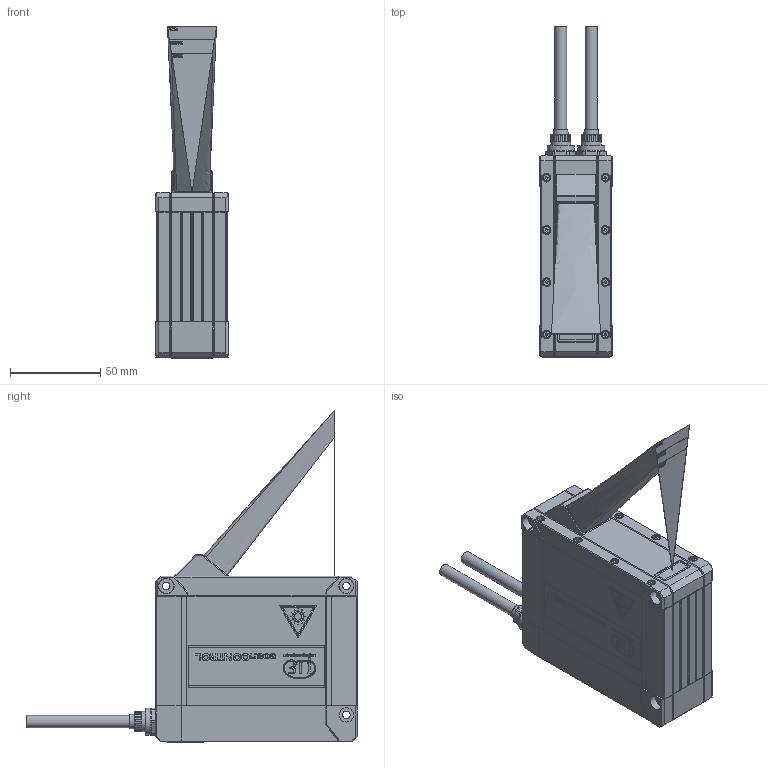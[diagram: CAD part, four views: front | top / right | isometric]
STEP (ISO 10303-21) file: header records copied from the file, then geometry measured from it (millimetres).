
FILE_DESCRIPTION (( 'STEP AP214' ), '1' );
FILE_NAME ('LLT30xx-25.STEP', '2022-11-28T15:06:25', ( '' ), ( '' ), 'SwSTEP 2.0', 'SolidWorks 2020', '' );
FILE_SCHEMA (( 'AUTOMOTIVE_DESIGN' ));
Length unit declared in the file: millimetre
Products named in the file (7): Measurementrange; Field of View; MMR; EMR; SMR; Sensor; LLT30xx-25
Assembly tree (6 placements, depth 3):
  LLT30xx-25
    Sensor
    Measurementrange
      SMR
      MMR
      EMR
    Field of View
Bounding box: 40 x 183.4 x 184.25 mm (x, y, z)
Volume: 436966 mm3; surface area: 64227.8 mm2
Topology: 5 solids, 32 shells, 6618 faces, 18704 edges, 12349 vertices
Faces by surface type: plane 5427, bspline 785, cylinder 280, cone 92, torus 34
Full cylindrical faces by diameter (mm): 2 x16, 2.4 x19, 3.8 x16, 4.2 x3, 4.4 x16, 6.8 x4, 8 x4, 9.2 x2, 10.268 x2, 10.75 x2, 10.8 x2, 11.2 x2, 13 x2, 13.5 x2, 15 x2
Entity records: 316370 total; most frequent: CARTESIAN_POINT 78556, ORIENTED_EDGE 36768, DIRECTION 29200, EDGE_CURVE 18384, LINE 15846, VECTOR 15846, VERTEX_POINT 12247, EDGE_LOOP 7095
